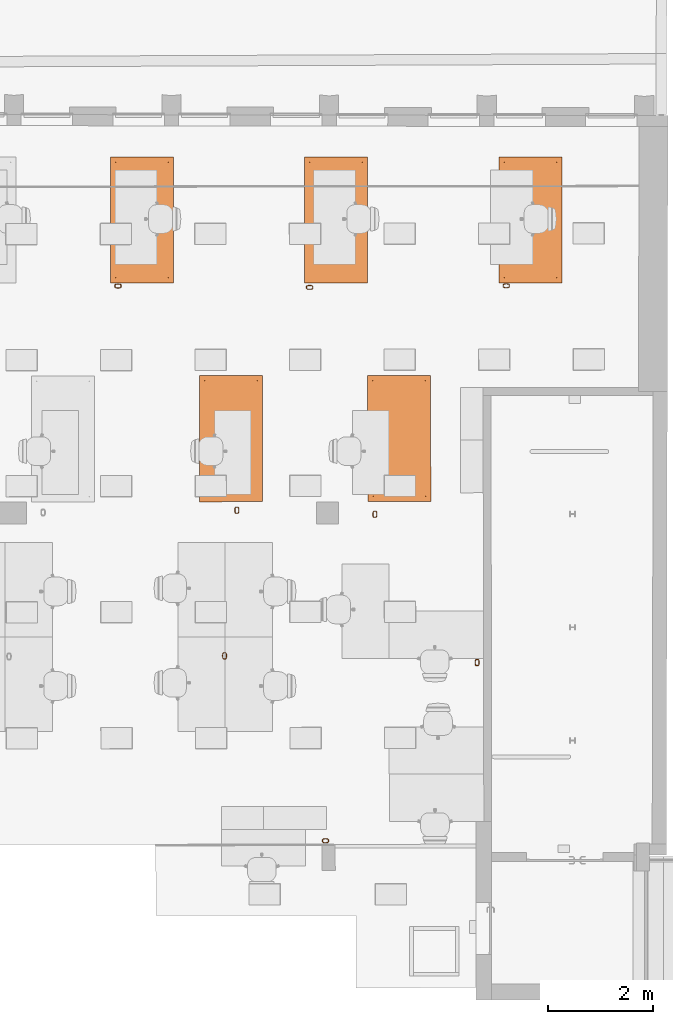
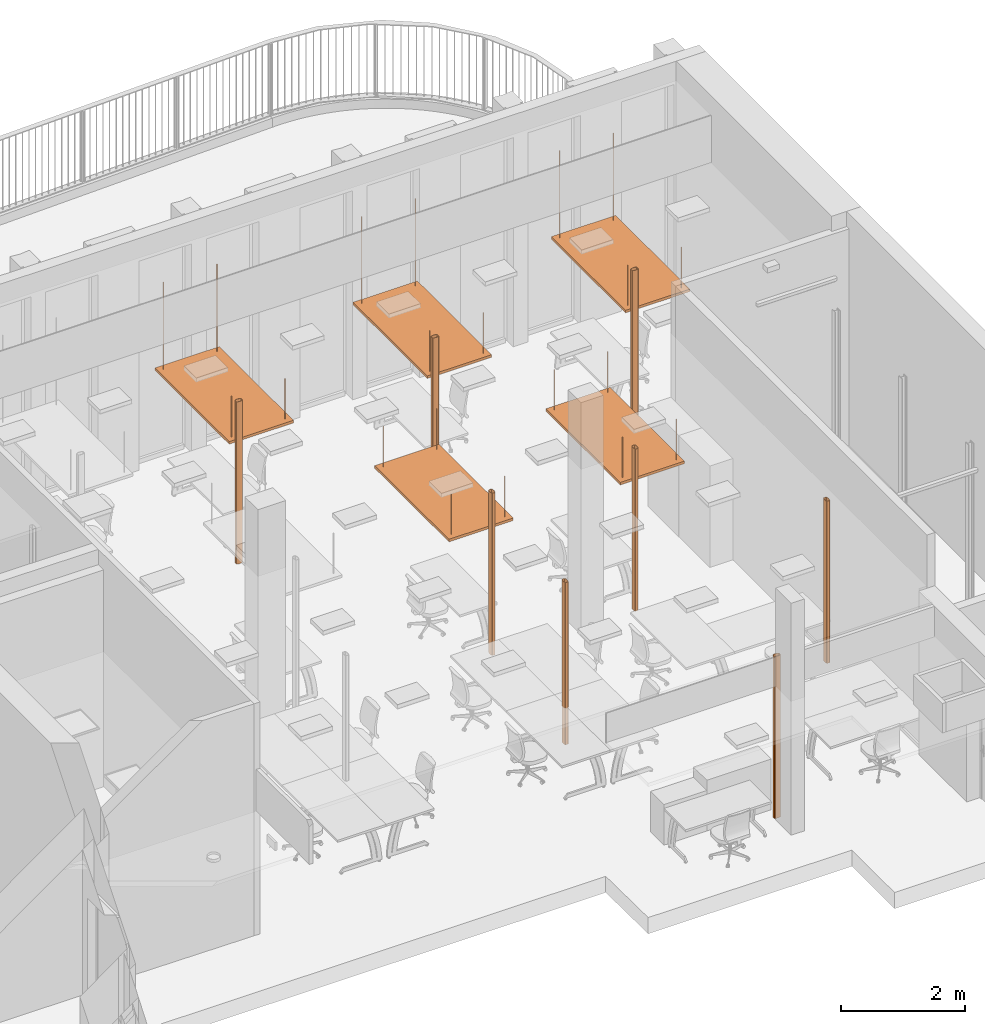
# One storey, part 128 of 128: 13 proxies.
"""IFC2X3 building model written with IfcOpenShell, lengths in metres."""

from ifc_helpers import new_model, entity, si_unit, converted_unit, derived_unit, direction, frame, origin, origin_2d_with_axis, place, context, subcontext, project, spatial, polyline, rectangle, circle, outline, extrude, source, transform, mapped, material, type_object, type_shapes, element, save


model = new_model("IFC2X3")

# Units and contexts
model_context = context("Model", 3, precision=1e-05, world=origin(), true_north=direction((6.123031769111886e-17, 1.0)))
body_context = subcontext(model_context, "Body", "Model", "MODEL_VIEW")
ifc_project = project(units=[si_unit("LENGTHUNIT", "METRE"), si_unit("AREAUNIT", "SQUARE_METRE"), converted_unit("PLANEANGLEUNIT", "DEGREE", entity("IfcPlaneAngleMeasure", 0.017453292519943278), si_unit("PLANEANGLEUNIT", "RADIAN"), dimensions=[0, 0, 0, 0, 0, 0, 0]), derived_unit("THERMALTRANSMITTANCEUNIT", [(si_unit("MASSUNIT", "GRAM", prefix="KILO"), 1), (si_unit("THERMODYNAMICTEMPERATUREUNIT", "KELVIN"), -1), (si_unit("TIMEUNIT", "SECOND"), -3)])], contexts=[model_context])

# Site, building, storey
site_placement = place(None, origin())
site = spatial("IfcSite", under=ifc_project, at=site_placement, Name="Default", CompositionType="ELEMENT")
building_placement = place(site_placement, origin())
building = spatial("IfcBuilding", under=site, at=building_placement, CompositionType="ELEMENT")
storey_placement = place(building_placement, origin())
storey = spatial("IfcBuildingStorey", under=building, at=storey_placement, Name="00_RDC CAF", CompositionType="ELEMENT", Elevation=2.4982504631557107e-13)

# Proxies
ifc_material_1 = material(Name="ARC - Mo - Blanc")
building_element_proxy_type_1 = type_object("IfcBuildingElementProxyType", Name="Eq_Spe_Plafond_Acoustique_Suspendu:Eq_Spe_Plafond_Acoustique_Suspendu", PredefinedType="NOTDEFINED", material=ifc_material_1)
shared_shape_1 = source(origin(), body_context, "Body", "SweptSolid", [
    extrude(circle(Radius=0.005, at=origin_2d_with_axis()), frame((-1.0999999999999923, -0.5000000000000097, 0.0)), (0.0, 0.0, 1.0), 0.8000000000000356),
    extrude(circle(Radius=0.005, at=origin_2d_with_axis()), frame((-1.0999999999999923, 0.4999999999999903, 0.0)), (0.0, 0.0, 1.0), 0.8000000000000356),
    extrude(circle(Radius=0.005, at=origin_2d_with_axis()), frame((1.1000000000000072, -0.5000000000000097, 0.0)), (0.0, 0.0, 1.0), 0.8),
    extrude(circle(Radius=0.005, at=origin_2d_with_axis()), frame((1.1000000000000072, 0.4999999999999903, 0.0)), (0.0, 0.0, 1.0), 0.8),
    extrude(rectangle(XDim=2.3999999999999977, YDim=1.1999999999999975, at=origin_2d_with_axis()), frame((0.0, 0.0, 0.7999999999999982), z_axis=(0.0, 0.0, 1.0), x_axis=(-1.0, 0.0, 0.0)), (0.0, 0.0, 1.0), 0.05),
])
type_shapes(building_element_proxy_type_1, [shared_shape_1])
for number, where, z_axis, x_axis, name in (
    (1, (40.88371832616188, 137.950843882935, 3.1999999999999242), (0.0, 0.0, -1.0), (0.0011868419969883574, -0.9999992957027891, 0.0), "Eq_Spe_Plafond_Acoustique_Suspendu:Eq_Spe_Plafond_Acoustique_Suspendu"),
    (2, (44.08371381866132, 137.95464177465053, 3.1999999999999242), (0.0, 0.0, -1.0), (0.0011868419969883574, -0.9999992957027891, 0.0), "Eq_Spe_Plafond_Acoustique_Suspendu:Eq_Spe_Plafond_Acoustique_Suspendu"),
):
    element("IfcBuildingElementProxy", number, at=place(storey_placement, frame(where, z_axis=z_axis, x_axis=x_axis)), inside=storey, type_object=building_element_proxy_type_1, material=ifc_material_1, Name=name, ObjectType="Eq_Spe_Plafond_Acoustique_Suspendu:Eq_Spe_Plafond_Acoustique_Suspendu", context=body_context, shape_type="MappedRepresentation", body=[
        mapped(shared_shape_1, transform((0.0, 0.0, 0.0), scale=1.0)),
    ])
ifc_material_2 = material(Name="<Unnamed>")
building_element_proxy_type_2 = type_object("IfcBuildingElementProxyType", Name="Eq_Spe_Plafond_Acoustique_Suspendu:Eq_Spe_Plafond_Acoustique_Suspendu", PredefinedType="NOTDEFINED", material=ifc_material_2)
shared_shape_2 = source(origin(), body_context, "Body", "SweptSolid", [
    extrude(circle(Radius=0.005, at=origin_2d_with_axis()), frame((-1.0999999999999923, -0.5000000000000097, -0.9200000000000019)), (0.0, 0.0, 1.0), 1.72),
    extrude(circle(Radius=0.005, at=origin_2d_with_axis()), frame((-1.0999999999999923, 0.4999999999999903, -0.9200000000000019)), (0.0, 0.0, 1.0), 1.72),
    extrude(circle(Radius=0.005, at=origin_2d_with_axis()), frame((1.1000000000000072, -0.5000000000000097, 0.0)), (0.0, 0.0, 1.0), 0.8),
    extrude(circle(Radius=0.005, at=origin_2d_with_axis()), frame((1.1000000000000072, 0.4999999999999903, 0.0)), (0.0, 0.0, 1.0), 0.8),
    extrude(rectangle(XDim=2.3999999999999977, YDim=1.1999999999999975, at=origin_2d_with_axis()), frame((0.0, 0.0, 0.7999999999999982), z_axis=(0.0, 0.0, 1.0), x_axis=(-1.0, 0.0, 0.0)), (0.0, 0.0, 1.0), 0.05),
])
type_shapes(building_element_proxy_type_2, [shared_shape_2])
for number, where, z_axis, x_axis, name in (
    (3, (39.1842332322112, 142.11148300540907, 3.1999999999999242), (0.0, 0.0, -1.0), (0.0, -1.0, 0.0), "Eq_Spe_Plafond_Acoustique_Suspendu:Eq_Spe_Plafond_Acoustique_Suspendu"),
    (4, (42.884233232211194, 142.11148300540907, 3.1999999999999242), (0.0, 0.0, -1.0), (0.0, -1.0, 0.0), "Eq_Spe_Plafond_Acoustique_Suspendu:Eq_Spe_Plafond_Acoustique_Suspendu"),
    (5, (46.5842332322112, 142.1114830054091, 3.1999999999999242), (0.0, 0.0, -1.0), (0.0, -1.0, 0.0), "Eq_Spe_Plafond_Acoustique_Suspendu:Eq_Spe_Plafond_Acoustique_Suspendu"),
):
    element("IfcBuildingElementProxy", number, at=place(storey_placement, frame(where, z_axis=z_axis, x_axis=x_axis)), inside=storey, type_object=building_element_proxy_type_2, material=ifc_material_2, Name=name, ObjectType="Eq_Spe_Plafond_Acoustique_Suspendu:Eq_Spe_Plafond_Acoustique_Suspendu", context=body_context, shape_type="MappedRepresentation", body=[
        mapped(shared_shape_2, transform((0.0, 0.0, 0.0), scale=1.0)),
    ])
building_element_proxy_type_3 = type_object("IfcBuildingElementProxyType", Name="Eq_Elec_Colonne_Electrique:Eq_Elec_Colonne_Electrique_120x80mm", PredefinedType="NOTDEFINED", material=ifc_material_2)
shared_shape_3 = source(origin(), body_context, "Body", "SweptSolid", [
    extrude(outline(polyline([(-0.020000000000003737, -0.05999999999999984), (0.019999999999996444, -0.05999999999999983), (0.023128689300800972, -0.05926130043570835), (0.02907980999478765, -0.053460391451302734), (0.03414213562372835, -0.042426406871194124), (0.0378201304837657, -0.027239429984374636), (0.03975376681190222, -0.009386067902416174), (0.03975376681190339, 0.009386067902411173), (0.03782013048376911, 0.02723942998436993), (0.03414213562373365, 0.04242640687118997), (0.029079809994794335, 0.05346039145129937), (0.02312868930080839, 0.05926130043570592), (0.020000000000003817, 0.05999999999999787), (-0.019999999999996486, 0.06000000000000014), (-0.02312868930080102, 0.05926130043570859), (-0.029079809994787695, 0.05346039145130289), (-0.034142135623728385, 0.042426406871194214), (-0.03782013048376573, 0.02723942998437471), (-0.03975376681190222, 0.009386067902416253), (-0.03975376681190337, -0.009386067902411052), (-0.037820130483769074, -0.02723942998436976), (-0.03414213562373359, -0.04242640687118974), (-0.02907980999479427, -0.053460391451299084), (-0.023128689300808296, -0.05926130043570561), (-0.020000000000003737, -0.05999999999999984)]), holes=[polyline([(-0.020000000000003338, -0.054999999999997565), (-0.020774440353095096, -0.05483604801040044), (-0.0220433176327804, -0.05405805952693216), (-0.023758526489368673, -0.05229805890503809), (-0.025667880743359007, -0.04946080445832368), (-0.027588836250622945, -0.04560885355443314), (-0.029398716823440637, -0.04084541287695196), (-0.031022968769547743, -0.03528665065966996), (-0.032410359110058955, -0.029054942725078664), (-0.03352451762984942, -0.02227710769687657), (-0.03433829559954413, -0.015084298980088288), (-0.03483355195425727, -0.007612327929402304), (-0.035000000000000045, 0.0), (-0.03483355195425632, 0.007612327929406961), (-0.03433829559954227, 0.01508429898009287), (-0.033524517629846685, 0.022277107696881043), (-0.03241035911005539, 0.02905494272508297), (-0.031022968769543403, 0.035286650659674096), (-0.02939871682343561, 0.04084541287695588), (-0.027588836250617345, 0.04560885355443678), (-0.025667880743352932, 0.04946080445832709), (-0.02375852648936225, 0.052298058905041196), (-0.022043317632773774, 0.054058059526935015), (-0.020774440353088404, 0.05483604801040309), (-0.019999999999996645, 0.05500000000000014), (0.020000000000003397, 0.05499999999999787), (0.020774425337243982, 0.054836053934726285), (0.022043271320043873, 0.05405809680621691), (0.023758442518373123, 0.05229816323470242), (0.025667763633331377, 0.049461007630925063), (0.02758869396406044, 0.04560918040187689), (0.02939856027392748, 0.04084588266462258), (0.03102280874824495, 0.03528727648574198), (0.0324102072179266, 0.02905573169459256), (0.03352438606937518, 0.022278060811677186), (0.034338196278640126, 0.015085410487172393), (0.03483349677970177, 0.007613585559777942), (0.0349999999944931, 1.3846905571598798e-06), (0.03483361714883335, -0.007610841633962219), (0.03433843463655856, -0.01508274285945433), (0.03352473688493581, -0.022275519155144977), (0.03241066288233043, -0.029053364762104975), (0.031023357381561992, -0.03528513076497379), (0.02939918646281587, -0.04084400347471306), (0.02758937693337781, -0.045607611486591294), (0.025668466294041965, -0.04945978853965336), (0.023759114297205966, -0.05229732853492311), (0.022043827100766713, -0.05405764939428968), (0.02077478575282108, -0.054835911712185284), (0.020000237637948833, -0.05500000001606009), (-0.020000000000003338, -0.054999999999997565)])]), frame((0.0, 0.0, 0.0), z_axis=(0.0, 0.0, 1.0), x_axis=(0.0, -1.0, 0.0)), (0.0, 0.0, 1.0), 3.2),
])
type_shapes(building_element_proxy_type_3, [shared_shape_3])
proxy_placement = place(storey_placement, frame((38.729961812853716, 140.8569055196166, 0.0), z_axis=(0.0, 0.0, 1.0), x_axis=(-1.0, 0.0, 0.0)))
element("IfcBuildingElementProxy", 6, at=proxy_placement, inside=storey, type_object=building_element_proxy_type_3, material=ifc_material_2, Name="Eq_Elec_Colonne_Electrique:Eq_Elec_Colonne_Electrique_120x80mm", ObjectType="Eq_Elec_Colonne_Electrique:Eq_Elec_Colonne_Electrique_120x80mm", context=body_context, shape_type="MappedRepresentation", body=[
    mapped(shared_shape_3, transform((0.0, 0.0, 0.0), scale=1.0)),
])
for number, where, name in (
    (7, (42.37863564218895, 140.83162394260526, 0.0), "Eq_Elec_Colonne_Electrique:Eq_Elec_Colonne_Electrique_120x80mm"),
    (8, (46.12192692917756, 140.86273726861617, 0.0), "Eq_Elec_Colonne_Electrique:Eq_Elec_Colonne_Electrique_120x80mm"),
):
    element("IfcBuildingElementProxy", number, at=place(storey_placement, frame(where)), inside=storey, type_object=building_element_proxy_type_3, material=ifc_material_2, Name=name, ObjectType="Eq_Elec_Colonne_Electrique:Eq_Elec_Colonne_Electrique_120x80mm", context=body_context, shape_type="MappedRepresentation", body=[
        mapped(shared_shape_3, transform((0.0, 0.0, 0.0), scale=1.0)),
    ])
for number, where, z_axis, x_axis, name in (
    (9, (40.99264815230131, 136.58934532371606, 0.0), (0.0, 0.0, 1.0), (0.0, 1.0, 0.0), "Eq_Elec_Colonne_Electrique:Eq_Elec_Colonne_Electrique_120x80mm"),
    (10, (40.75889451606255, 133.81668987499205, 0.0), (0.0, 0.0, 1.0), (0.0, 1.0, 0.0), "Eq_Elec_Colonne_Electrique:Eq_Elec_Colonne_Electrique_120x80mm"),
    (11, (45.5674908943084, 133.68911520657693, 0.0), (0.0, 0.0, 1.0), (0.0, 1.0, 0.0), "Eq_Elec_Colonne_Electrique:Eq_Elec_Colonne_Electrique_120x80mm"),
    (12, (42.67877224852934, 130.29617379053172, 0.0), (0.0, 0.0, 1.0), (-1.0, 0.0, 0.0), "Eq_Elec_Colonne_Electrique:Eq_Elec_Colonne_Electrique_120x80mm"),
    (13, (43.62019401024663, 136.51096391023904, 0.0), (0.0, 0.0, 1.0), (0.0, -1.0, 0.0), "Eq_Elec_Colonne_Electrique:Eq_Elec_Colonne_Electrique_120x80mm"),
):
    element("IfcBuildingElementProxy", number, at=place(storey_placement, frame(where, z_axis=z_axis, x_axis=x_axis)), inside=storey, type_object=building_element_proxy_type_3, material=ifc_material_2, Name=name, ObjectType="Eq_Elec_Colonne_Electrique:Eq_Elec_Colonne_Electrique_120x80mm", context=body_context, shape_type="MappedRepresentation", body=[
        mapped(shared_shape_3, transform((0.0, 0.0, 0.0), scale=1.0)),
    ])

save(model, "model.ifc")
